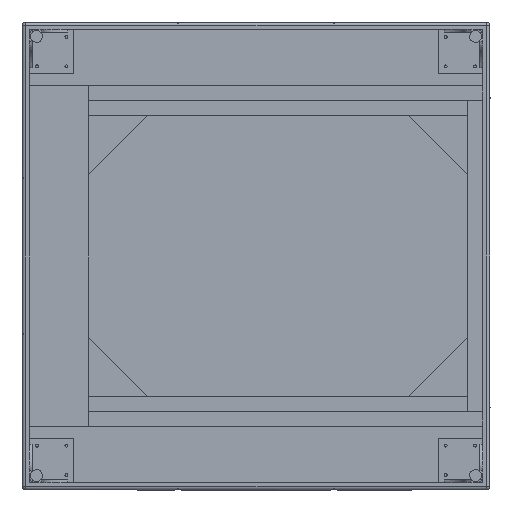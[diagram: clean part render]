
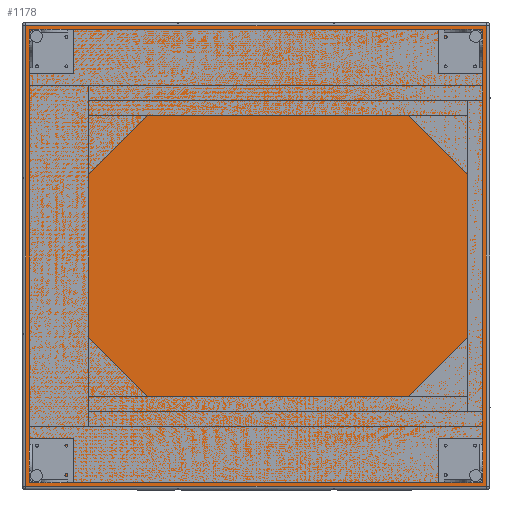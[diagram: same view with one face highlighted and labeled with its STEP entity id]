
A CAD part, left-side view. The second image highlights one B-rep face of the part: STEP entity #1178.
In plain terms, the highlighted planar face has unit normal (-1, 0, 0).
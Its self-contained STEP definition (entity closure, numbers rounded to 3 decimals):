
#872 = CARTESIAN_POINT ( 'NONE',  ( 0., 389., -389. ) ) ;
#1075 = VECTOR ( 'NONE', #1619, 1000. ) ;
#1178 = ADVANCED_FACE ( 'NONE', ( #5271 ), #7996, .F. ) ;
#1261 = VERTEX_POINT ( 'NONE', #3812 ) ;
#1353 = CARTESIAN_POINT ( 'NONE',  ( 0., 389., 389. ) ) ;
#1490 = ORIENTED_EDGE ( 'NONE', *, *, #1714, .T. ) ;
#1619 = DIRECTION ( 'NONE',  ( 0., 0., 1. ) ) ;
#1714 = EDGE_CURVE ( 'NONE', #1902, #1261, #11292, .T. ) ;
#1754 = VERTEX_POINT ( 'NONE', #1353 ) ;
#1902 = VERTEX_POINT ( 'NONE', #872 ) ;
#1968 = AXIS2_PLACEMENT_3D ( 'NONE', #9780, #4389, #3447 ) ;
#2277 = EDGE_CURVE ( 'NONE', #1261, #2470, #9740, .T. ) ;
#2470 = VERTEX_POINT ( 'NONE', #3037 ) ;
#3037 = CARTESIAN_POINT ( 'NONE',  ( 0., -389., 389. ) ) ;
#3447 = DIRECTION ( 'NONE',  ( 0., 0., -1. ) ) ;
#3562 = DIRECTION ( 'NONE',  ( 0., 1., 0. ) ) ;
#3784 = CARTESIAN_POINT ( 'NONE',  ( 0., 0., 389. ) ) ;
#3812 = CARTESIAN_POINT ( 'NONE',  ( 0., -389., -389. ) ) ;
#4389 = DIRECTION ( 'NONE',  ( 1., 0., 0. ) ) ;
#4952 = ORIENTED_EDGE ( 'NONE', *, *, #9083, .T. ) ;
#5139 = DIRECTION ( 'NONE',  ( 0., 0., -1. ) ) ;
#5271 = FACE_OUTER_BOUND ( 'NONE', #6383, .T. ) ;
#6277 = LINE ( 'NONE', #3784, #7843 ) ;
#6383 = EDGE_LOOP ( 'NONE', ( #1490, #9541, #4952, #7113 ) ) ;
#6914 = LINE ( 'NONE', #8632, #8839 ) ;
#7113 = ORIENTED_EDGE ( 'NONE', *, *, #9991, .T. ) ;
#7843 = VECTOR ( 'NONE', #3562, 1000. ) ;
#7899 = CARTESIAN_POINT ( 'NONE',  ( 0., -389., 0. ) ) ;
#7941 = CARTESIAN_POINT ( 'NONE',  ( 0., -395., -389. ) ) ;
#7996 = PLANE ( 'NONE',  #1968 ) ;
#8632 = CARTESIAN_POINT ( 'NONE',  ( 0., 389., -395. ) ) ;
#8839 = VECTOR ( 'NONE', #5139, 1000. ) ;
#9083 = EDGE_CURVE ( 'NONE', #2470, #1754, #6277, .T. ) ;
#9475 = DIRECTION ( 'NONE',  ( 0., -1., 0. ) ) ;
#9541 = ORIENTED_EDGE ( 'NONE', *, *, #2277, .T. ) ;
#9740 = LINE ( 'NONE', #7899, #1075 ) ;
#9780 = CARTESIAN_POINT ( 'NONE',  ( 0., 0., 0. ) ) ;
#9991 = EDGE_CURVE ( 'NONE', #1754, #1902, #6914, .T. ) ;
#10489 = VECTOR ( 'NONE', #9475, 1000. ) ;
#11292 = LINE ( 'NONE', #7941, #10489 ) ;
